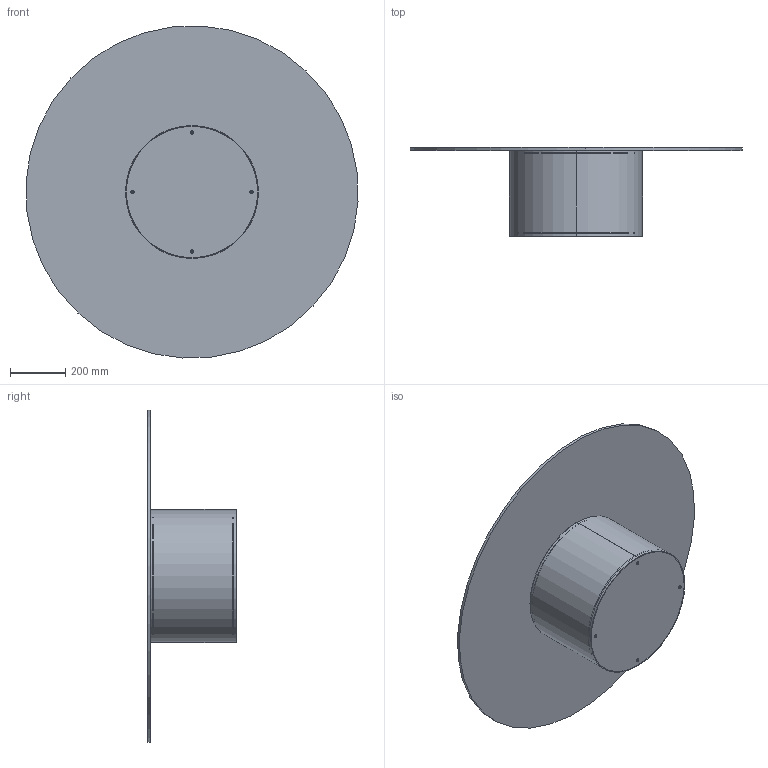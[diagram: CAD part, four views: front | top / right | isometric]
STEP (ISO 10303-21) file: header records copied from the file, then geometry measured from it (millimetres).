
FILE_DESCRIPTION (( 'STEP AP203' ), '1' );
FILE_NAME ('CL14G.STEP', '2024-08-06T10:17:27', ( '' ), ( '' ), 'SwSTEP 2.0', 'SolidWorks 2022', '' );
FILE_SCHEMA (( 'CONFIG_CONTROL_DESIGN' ));
Length unit declared in the file: millimetre
Products named in the file (10): M6xXXmm_HEX_M6x20mm HEX; P0000003-00-STAFFA DI FISSAGGIO DIAMETRO 250_P0000003-250mm normale; CXXCRXX-00-Piani Rotondi in Cristallo CON PIASTRA_C14P PIANO CRISTALLO D.120cm; C1XCRMXX-00-piani Rotondi Cristallo_C14 D.120cm; CL14G; CLB1000000-00-CILINDRO LOW D.48cm BASE GREZZA; CLB1000000_03-00-Zavorra cilindro low D.48cm; CLB1000000_04-00-Supporto Zavorra fusto D.48cm; CLB1000000_01-00-Supporto piano fusto D.48cm; CLB1000000_02-00-Fusto centrale d.48cm
Assembly tree (12 placements, depth 3):
  CL14G
    CLB1000000-00-CILINDRO LOW D.48cm BASE GREZZA
      CLB1000000_02-00-Fusto centrale d.48cm
      CLB1000000_03-00-Zavorra cilindro low D.48cm
      CLB1000000_01-00-Supporto piano fusto D.48cm
      CLB1000000_04-00-Supporto Zavorra fusto D.48cm
      M6xXXmm_HEX_M6x20mm HEX  x4
    CXXCRXX-00-Piani Rotondi in Cristallo CON PIASTRA_C14P PIANO CRISTALLO D.120cm
      C1XCRMXX-00-piani Rotondi Cristallo_C14 D.120cm
      P0000003-00-STAFFA DI FISSAGGIO DIAMETRO 250_P0000003-250mm normale
Bounding box: 1198.01 x 320 x 1198.01 mm (x, y, z)
Volume: 14822494.9 mm3; surface area: 3989705.1 mm2
Topology: 12 solids, 12 shells, 231 faces, 499 edges, 288 vertices
Faces by surface type: plane 110, cylinder 73, cone 38, torus 8, bspline 2
Entity records: 5193 total; most frequent: CARTESIAN_POINT 1002, DIRECTION 697, ORIENTED_EDGE 586, EDGE_CURVE 293, AXIS2_PLACEMENT_3D 284, VERTEX_POINT 183, EDGE_LOOP 164, CIRCLE 140
